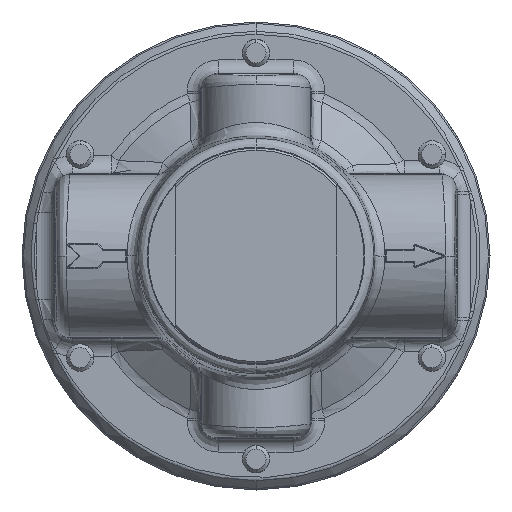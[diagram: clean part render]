
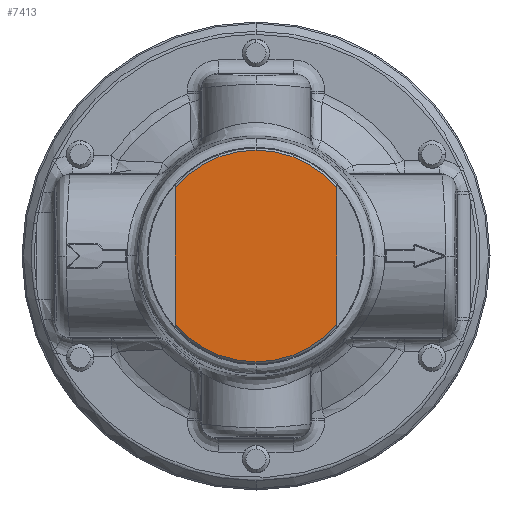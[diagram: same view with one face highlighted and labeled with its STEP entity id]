
A CAD part, front view. The second image highlights one B-rep face of the part: STEP entity #7413.
In plain terms, the highlighted planar face has unit normal (0, -1, 0).
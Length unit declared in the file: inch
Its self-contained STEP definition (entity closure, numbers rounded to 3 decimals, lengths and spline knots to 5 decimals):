
#1542 = CARTESIAN_POINT ( 'NONE',  ( -0.55875, -1.906, -0.7475 ) ) ;
#1617 = LINE ( 'NONE', #1542, #5246 ) ;
#1625 = DIRECTION ( 'NONE',  ( 0., 0., -1. ) ) ;
#1719 = CARTESIAN_POINT ( 'NONE',  ( 0., -1.906, 0. ) ) ;
#1721 = DIRECTION ( 'NONE',  ( 0., 1., 0. ) ) ;
#1723 = DIRECTION ( 'NONE',  ( 0., 0., 1. ) ) ;
#1755 = CARTESIAN_POINT ( 'NONE',  ( 0., -1.906, 0. ) ) ;
#1757 = DIRECTION ( 'NONE',  ( 0., 1., 0. ) ) ;
#1759 = DIRECTION ( 'NONE',  ( 0., 0., 1. ) ) ;
#2032 = CARTESIAN_POINT ( 'NONE',  ( 0.55875, -1.906, -0.7475 ) ) ;
#2043 = LINE ( 'NONE', #2032, #5321 ) ;
#2052 = DIRECTION ( 'NONE',  ( 0., 0., -1. ) ) ;
#5246 = VECTOR ( 'NONE', #1625, 39.37008 ) ;
#5267 = CIRCLE ( 'NONE', #5272, 0.7325 ) ;
#5272 = AXIS2_PLACEMENT_3D ( 'NONE', #1719, #1721, #1723 ) ;
#5277 = CIRCLE ( 'NONE', #5282, 0.7325 ) ;
#5282 = AXIS2_PLACEMENT_3D ( 'NONE', #1755, #1757, #1759 ) ;
#5321 = VECTOR ( 'NONE', #2052, 39.37008 ) ;
#5447 = ORIENTED_EDGE ( 'NONE', *, *, #21437, .F. ) ;
#7413 = ADVANCED_FACE ( 'NONE', ( #15333 ), #15334, .T. ) ;
#7485 = VERTEX_POINT ( 'NONE', #15385 ) ;
#7646 = VERTEX_POINT ( 'NONE', #15546 ) ;
#7896 = VERTEX_POINT ( 'NONE', #15796 ) ;
#8027 = VERTEX_POINT ( 'NONE', #13466 ) ;
#12673 = EDGE_LOOP ( 'NONE', ( #20522, #5447, #15930, #20519, #20535 ) ) ;
#13466 = CARTESIAN_POINT ( 'NONE',  ( 0.55875, -1.906, -0.47366 ) ) ;
#15331 = CARTESIAN_POINT ( 'NONE',  ( 0., -1.906, 0. ) ) ;
#15333 = FACE_OUTER_BOUND ( 'NONE', #12673, .T. ) ;
#15334 = PLANE ( 'NONE',  #26643 ) ;
#15337 = DIRECTION ( 'NONE',  ( 0., -1., 0. ) ) ;
#15338 = DIRECTION ( 'NONE',  ( 1., 0., 0. ) ) ;
#15385 = CARTESIAN_POINT ( 'NONE',  ( -0.55875, -1.906, -0.47366 ) ) ;
#15546 = CARTESIAN_POINT ( 'NONE',  ( 0., -1.906, 0.7325 ) ) ;
#15796 = CARTESIAN_POINT ( 'NONE',  ( -0.55875, -1.906, 0.47366 ) ) ;
#15930 = ORIENTED_EDGE ( 'NONE', *, *, #24766, .F. ) ;
#18441 = VERTEX_POINT ( 'NONE', #21811 ) ;
#19477 = CARTESIAN_POINT ( 'NONE',  ( 0., -1.906, 0. ) ) ;
#19479 = DIRECTION ( 'NONE',  ( 0., 1., 0. ) ) ;
#19480 = DIRECTION ( 'NONE',  ( 0., 0., 1. ) ) ;
#20519 = ORIENTED_EDGE ( 'NONE', *, *, #21424, .T. ) ;
#20522 = ORIENTED_EDGE ( 'NONE', *, *, #21480, .F. ) ;
#20535 = ORIENTED_EDGE ( 'NONE', *, *, #21442, .F. ) ;
#21424 = EDGE_CURVE ( 'NONE', #7896, #7485, #1617, .T. ) ;
#21437 = EDGE_CURVE ( 'NONE', #7646, #18441, #5267, .T. ) ;
#21442 = EDGE_CURVE ( 'NONE', #8027, #7485, #5277, .T. ) ;
#21480 = EDGE_CURVE ( 'NONE', #18441, #8027, #2043, .T. ) ;
#21811 = CARTESIAN_POINT ( 'NONE',  ( 0.55875, -1.906, 0.47366 ) ) ;
#22729 = CIRCLE ( 'NONE', #22752, 0.7325 ) ;
#22752 = AXIS2_PLACEMENT_3D ( 'NONE', #19477, #19479, #19480 ) ;
#24766 = EDGE_CURVE ( 'NONE', #7896, #7646, #22729, .T. ) ;
#26643 = AXIS2_PLACEMENT_3D ( 'NONE', #15331, #15337, #15338 ) ;
